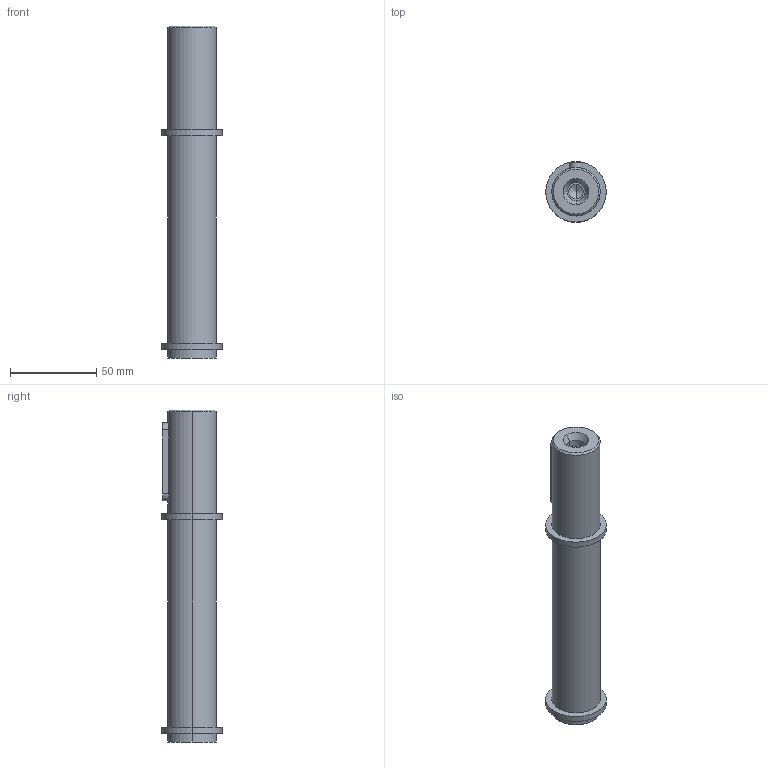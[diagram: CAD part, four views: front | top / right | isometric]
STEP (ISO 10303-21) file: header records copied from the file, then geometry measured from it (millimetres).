
FILE_DESCRIPTION(/* description */ (''),/* implementation_level */ '2;1');
FILE_NAME(/* name */ '3_ALBERO LENTO SEMPLICE NMRV-P075',/* time_stamp */ '2025-10-09T15:13:09+02:00',/* author */ (''),/* organization */ (''),/* preprocessor_version */ 'ST-DEVELOPER v19.2',/* originating_system */ 'Rhino 8.23',/* authorisation */ '');
FILE_SCHEMA (('CONFIG_CONTROL_DESIGN'));
Length unit declared in the file: millimetre
Products named in the file (2): Document; AL 075-28(1-1)-p
Bounding box: 35 x 35 x 192 mm (x, y, z)
Volume: 119624.7 mm3; surface area: 20760.7 mm2
Topology: 1 solids, 1 shells, 32 faces, 66 edges, 41 vertices
Faces by surface type: cylinder 16, plane 10, bspline 6
Entity records: 1108 total; most frequent: CARTESIAN_POINT 303, ORIENTED_EDGE 128, DIRECTION 102, EDGE_CURVE 64, AXIS2_PLACEMENT_3D 64, VERTEX_POINT 41, EDGE_LOOP 39, TRIMMED_CURVE 34
